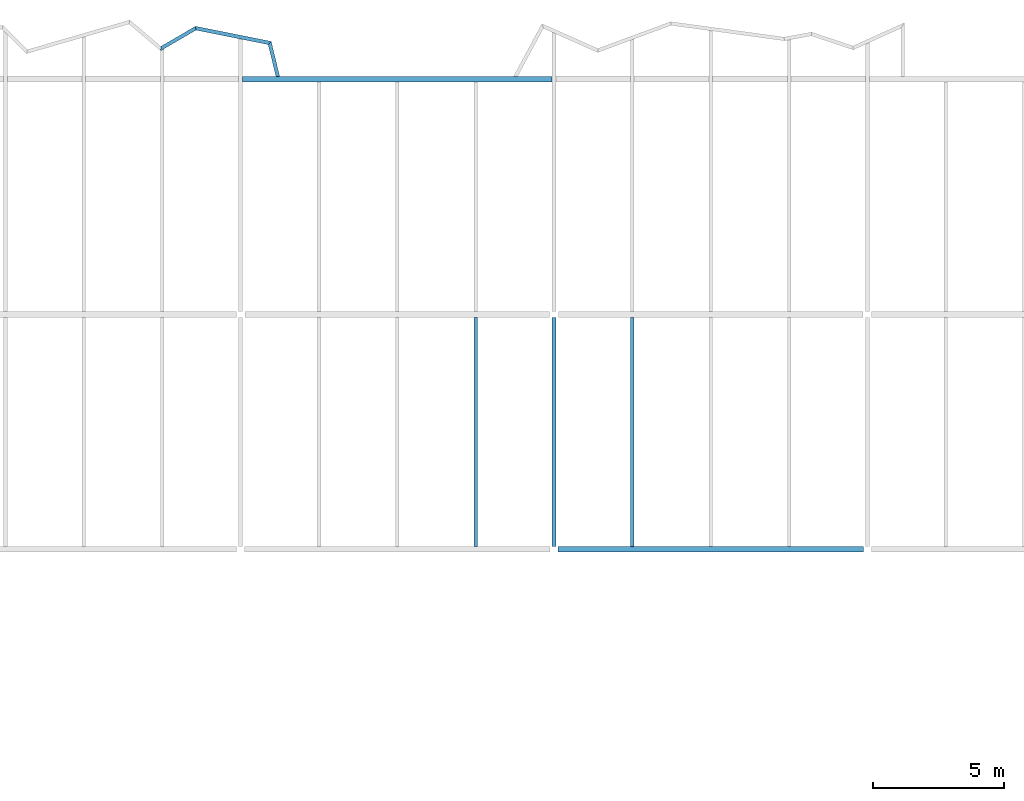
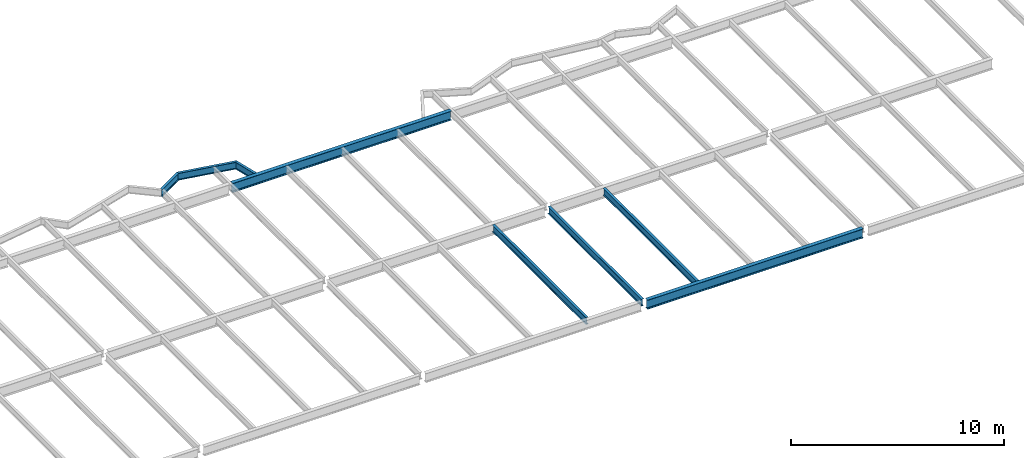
# One storey, part 5 of 21: 8 beams.
"""IFC2X3 building model written with IfcOpenShell, lengths in millimetres."""

from ifc_helpers import new_model, si_unit, origin, place, context, project, spatial, faceted_brep, material, element, save


model = new_model("IFC2X3")

# Units and contexts
context_of_model = context(None, 3, precision=1e-05, world=origin())
ifc_project = project(units=[si_unit("LENGTHUNIT", "METRE", prefix="MILLI")], contexts=[context_of_model])

# Building, storey
building = spatial("IfcBuilding", under=ifc_project, Name="Building", CompositionType="ELEMENT")
storey = spatial("IfcBuildingStorey", under=building, Name="FL3-FRM", CompositionType="ELEMENT")

# Beams
ifc_material_1 = material(Name="A992")
beam_1_placement = place(None, origin())
element("IfcBeam", 1, at=beam_1_placement, inside=storey, material=ifc_material_1, Name="Column455", context=context_of_model, shape_type="Brep", body=[
    faceted_brep([(-35930.0, 35895.5, 8345.0), (-35930.0, 36104.5, 8345.0), (-24070.0, 36104.5, 8345.0), (-24070.0, 35895.5, 8345.0), (-35930.0, 36104.5, 8358.3), (-24070.0, 36104.5, 8358.3), (-35930.0, 36017.4, 8358.3), (-24070.0, 36017.4, 8358.3), (-35930.0, 36014.2, 8358.73), (-24070.0, 36014.2, 8358.73), (-35930.0, 36011.1, 8360.0), (-24070.0, 36011.1, 8360.0), (-35930.0, 36008.5, 8362.02), (-24070.0, 36008.5, 8362.02), (-35930.0, 36006.5, 8364.65), (-24070.0, 36006.5, 8364.65), (-35930.0, 36005.2, 8367.71), (-24070.0, 36005.2, 8367.71), (-35930.0, 36004.8, 8371.0), (-24070.0, 36004.8, 8371.0), (-35930.0, 36004.8, 8847.0), (-24070.0, 36004.8, 8847.0), (-35930.0, 36005.2, 8850.29), (-24070.0, 36005.2, 8850.29), (-35930.0, 36006.5, 8853.35), (-24070.0, 36006.5, 8853.35), (-35930.0, 36008.5, 8855.98), (-24070.0, 36008.5, 8855.98), (-35930.0, 36011.1, 8858.0), (-24070.0, 36011.1, 8858.0), (-35930.0, 36014.2, 8859.27), (-24070.0, 36014.2, 8859.27), (-35930.0, 36017.4, 8859.7), (-24070.0, 36017.4, 8859.7), (-35930.0, 36104.5, 8859.7), (-24070.0, 36104.5, 8859.7), (-35930.0, 36104.5, 8873.0), (-24070.0, 36104.5, 8873.0), (-35930.0, 35895.5, 8873.0), (-24070.0, 35895.5, 8873.0), (-35930.0, 35895.5, 8859.7), (-24070.0, 35895.5, 8859.7), (-35930.0, 35982.6, 8859.7), (-24070.0, 35982.6, 8859.7), (-35930.0, 35985.8, 8859.27), (-24070.0, 35985.8, 8859.27), (-35930.0, 35988.9, 8858.0), (-24070.0, 35988.9, 8858.0), (-35930.0, 35991.5, 8855.98), (-24070.0, 35991.5, 8855.98), (-35930.0, 35993.5, 8853.35), (-24070.0, 35993.5, 8853.35), (-35930.0, 35994.8, 8850.29), (-24070.0, 35994.8, 8850.29), (-35930.0, 35995.3, 8847.0), (-24070.0, 35995.3, 8847.0), (-35930.0, 35995.3, 8371.0), (-24070.0, 35995.3, 8371.0), (-35930.0, 35994.8, 8367.71), (-24070.0, 35994.8, 8367.71), (-35930.0, 35993.5, 8364.65), (-24070.0, 35993.5, 8364.65), (-35930.0, 35991.5, 8362.02), (-24070.0, 35991.5, 8362.02), (-35930.0, 35988.9, 8360.0), (-24070.0, 35988.9, 8360.0), (-35930.0, 35985.8, 8358.73), (-24070.0, 35985.8, 8358.73), (-35930.0, 35982.6, 8358.3), (-24070.0, 35982.6, 8358.3), (-35930.0, 35895.5, 8358.3), (-24070.0, 35895.5, 8358.3)], [[[0, 1, 2, 3]], [[1, 4, 5, 2]], [[4, 6, 7, 5]], [[6, 8, 9, 7]], [[8, 10, 11, 9]], [[10, 12, 13, 11]], [[12, 14, 15, 13]], [[14, 16, 17, 15]], [[16, 18, 19, 17]], [[18, 20, 21, 19]], [[20, 22, 23, 21]], [[22, 24, 25, 23]], [[24, 26, 27, 25]], [[26, 28, 29, 27]], [[28, 30, 31, 29]], [[30, 32, 33, 31]], [[32, 34, 35, 33]], [[34, 36, 37, 35]], [[36, 38, 39, 37]], [[38, 40, 41, 39]], [[40, 42, 43, 41]], [[42, 44, 45, 43]], [[44, 46, 47, 45]], [[46, 48, 49, 47]], [[48, 50, 51, 49]], [[50, 52, 53, 51]], [[52, 54, 55, 53]], [[54, 56, 57, 55]], [[56, 58, 59, 57]], [[58, 60, 61, 59]], [[60, 62, 63, 61]], [[62, 64, 65, 63]], [[64, 66, 67, 65]], [[66, 68, 69, 67]], [[68, 70, 71, 69]], [[70, 0, 3, 71]], [[0, 70, 68, 66, 64, 62, 60, 58, 56, 54, 52, 50, 48, 46, 44, 42, 40, 38, 36, 34, 32, 30, 28, 26, 24, 22, 20, 18, 16, 14, 12, 10, 8, 6, 4, 1]], [[3, 2, 5, 7, 9, 11, 13, 15, 17, 19, 21, 23, 25, 27, 29, 31, 33, 35, 37, 39, 41, 43, 45, 47, 49, 51, 53, 55, 57, 59, 61, 63, 65, 67, 69, 71]]]),
])
ifc_material_2 = material(Name="A992")
beam_2_placement = place(None, origin())
element("IfcBeam", 2, at=beam_2_placement, inside=storey, material=ifc_material_2, Name="Column467", context=context_of_model, shape_type="Brep", body=[
    faceted_brep([(-23846.0, 17895.5, 8345.0), (-23846.0, 18104.5, 8345.0), (-12154.0, 18104.5, 8345.0), (-12154.0, 17895.5, 8345.0), (-23846.0, 18104.5, 8358.3), (-12154.0, 18104.5, 8358.3), (-23846.0, 18017.4, 8358.3), (-12154.0, 18017.4, 8358.3), (-23846.0, 18014.2, 8358.73), (-12154.0, 18014.2, 8358.73), (-23846.0, 18011.1, 8360.0), (-12154.0, 18011.1, 8360.0), (-23846.0, 18008.5, 8362.02), (-12154.0, 18008.5, 8362.02), (-23846.0, 18006.5, 8364.65), (-12154.0, 18006.5, 8364.65), (-23846.0, 18005.2, 8367.71), (-12154.0, 18005.2, 8367.71), (-23846.0, 18004.8, 8371.0), (-12154.0, 18004.8, 8371.0), (-23846.0, 18004.8, 8847.0), (-12154.0, 18004.8, 8847.0), (-23846.0, 18005.2, 8850.29), (-12154.0, 18005.2, 8850.29), (-23846.0, 18006.5, 8853.35), (-12154.0, 18006.5, 8853.35), (-23846.0, 18008.5, 8855.98), (-12154.0, 18008.5, 8855.98), (-23846.0, 18011.1, 8858.0), (-12154.0, 18011.1, 8858.0), (-23846.0, 18014.2, 8859.27), (-12154.0, 18014.2, 8859.27), (-23846.0, 18017.4, 8859.7), (-12154.0, 18017.4, 8859.7), (-23846.0, 18104.5, 8859.7), (-12154.0, 18104.5, 8859.7), (-23846.0, 18104.5, 8873.0), (-12154.0, 18104.5, 8873.0), (-23846.0, 17895.5, 8873.0), (-12154.0, 17895.5, 8873.0), (-23846.0, 17895.5, 8859.7), (-12154.0, 17895.5, 8859.7), (-23846.0, 17982.6, 8859.7), (-12154.0, 17982.6, 8859.7), (-23846.0, 17985.8, 8859.27), (-12154.0, 17985.8, 8859.27), (-23846.0, 17988.9, 8858.0), (-12154.0, 17988.9, 8858.0), (-23846.0, 17991.5, 8855.98), (-12154.0, 17991.5, 8855.98), (-23846.0, 17993.5, 8853.35), (-12154.0, 17993.5, 8853.35), (-23846.0, 17994.8, 8850.29), (-12154.0, 17994.8, 8850.29), (-23846.0, 17995.3, 8847.0), (-12154.0, 17995.3, 8847.0), (-23846.0, 17995.3, 8371.0), (-12154.0, 17995.3, 8371.0), (-23846.0, 17994.8, 8367.71), (-12154.0, 17994.8, 8367.71), (-23846.0, 17993.5, 8364.65), (-12154.0, 17993.5, 8364.65), (-23846.0, 17991.5, 8362.02), (-12154.0, 17991.5, 8362.02), (-23846.0, 17988.9, 8360.0), (-12154.0, 17988.9, 8360.0), (-23846.0, 17985.8, 8358.73), (-12154.0, 17985.8, 8358.73), (-23846.0, 17982.6, 8358.3), (-12154.0, 17982.6, 8358.3), (-23846.0, 17895.5, 8358.3), (-12154.0, 17895.5, 8358.3)], [[[0, 1, 2, 3]], [[1, 4, 5, 2]], [[4, 6, 7, 5]], [[6, 8, 9, 7]], [[8, 10, 11, 9]], [[10, 12, 13, 11]], [[12, 14, 15, 13]], [[14, 16, 17, 15]], [[16, 18, 19, 17]], [[18, 20, 21, 19]], [[20, 22, 23, 21]], [[22, 24, 25, 23]], [[24, 26, 27, 25]], [[26, 28, 29, 27]], [[28, 30, 31, 29]], [[30, 32, 33, 31]], [[32, 34, 35, 33]], [[34, 36, 37, 35]], [[36, 38, 39, 37]], [[38, 40, 41, 39]], [[40, 42, 43, 41]], [[42, 44, 45, 43]], [[44, 46, 47, 45]], [[46, 48, 49, 47]], [[48, 50, 51, 49]], [[50, 52, 53, 51]], [[52, 54, 55, 53]], [[54, 56, 57, 55]], [[56, 58, 59, 57]], [[58, 60, 61, 59]], [[60, 62, 63, 61]], [[62, 64, 65, 63]], [[64, 66, 67, 65]], [[66, 68, 69, 67]], [[68, 70, 71, 69]], [[70, 0, 3, 71]], [[0, 70, 68, 66, 64, 62, 60, 58, 56, 54, 52, 50, 48, 46, 44, 42, 40, 38, 36, 34, 32, 30, 28, 26, 24, 22, 20, 18, 16, 14, 12, 10, 8, 6, 4, 1]], [[3, 2, 5, 7, 9, 11, 13, 15, 17, 19, 21, 23, 25, 27, 29, 31, 33, 35, 37, 39, 41, 43, 45, 47, 49, 51, 53, 55, 57, 59, 61, 63, 65, 67, 69, 71]]]),
])
ifc_material_3 = material(Name="A992")
beam_3_placement = place(None, origin())
element("IfcBeam", 3, at=beam_3_placement, inside=storey, material=ifc_material_3, Name="B434", context=context_of_model, shape_type="Brep", body=[
    faceted_brep([(-20930.0, 18104.5, 8474.0), (-21070.0, 18104.5, 8474.0), (-21070.0, 26885.5, 8474.0), (-20930.0, 26885.5, 8474.0), (-21070.0, 18104.5, 8482.8), (-21070.0, 26885.5, 8482.8), (-21013.4, 18104.5, 8482.8), (-21013.4, 26885.5, 8482.8), (-21010.8, 18104.5, 8483.15), (-21010.8, 26885.5, 8483.15), (-21008.3, 18104.5, 8484.17), (-21008.3, 26885.5, 8484.17), (-21006.2, 18104.5, 8485.79), (-21006.2, 26885.5, 8485.79), (-21004.6, 18104.5, 8487.9), (-21004.6, 26885.5, 8487.9), (-21003.5, 18104.5, 8490.36), (-21003.5, 26885.5, 8490.36), (-21003.2, 18104.5, 8493.0), (-21003.2, 26885.5, 8493.0), (-21003.2, 18104.5, 8854.0), (-21003.2, 26885.5, 8854.0), (-21003.5, 18104.5, 8856.64), (-21003.5, 26885.5, 8856.64), (-21004.6, 18104.5, 8859.1), (-21004.6, 26885.5, 8859.1), (-21006.2, 18104.5, 8861.21), (-21006.2, 26885.5, 8861.21), (-21008.3, 18104.5, 8862.83), (-21008.3, 26885.5, 8862.83), (-21010.8, 18104.5, 8863.85), (-21010.8, 26885.5, 8863.85), (-21013.4, 18104.5, 8864.2), (-21013.4, 26885.5, 8864.2), (-21070.0, 18104.5, 8864.2), (-21070.0, 26885.5, 8864.2), (-21070.0, 18104.5, 8873.0), (-21070.0, 26885.5, 8873.0), (-20930.0, 18104.5, 8873.0), (-20930.0, 26885.5, 8873.0), (-20930.0, 18104.5, 8864.2), (-20930.0, 26885.5, 8864.2), (-20986.6, 18104.5, 8864.2), (-20986.6, 26885.5, 8864.2), (-20989.2, 18104.5, 8863.85), (-20989.2, 26885.5, 8863.85), (-20991.7, 18104.5, 8862.83), (-20991.7, 26885.5, 8862.83), (-20993.8, 18104.5, 8861.21), (-20993.8, 26885.5, 8861.21), (-20995.4, 18104.5, 8859.1), (-20995.4, 26885.5, 8859.1), (-20996.5, 18104.5, 8856.64), (-20996.5, 26885.5, 8856.64), (-20996.8, 18104.5, 8854.0), (-20996.8, 26885.5, 8854.0), (-20996.8, 18104.5, 8493.0), (-20996.8, 26885.5, 8493.0), (-20996.5, 18104.5, 8490.36), (-20996.5, 26885.5, 8490.36), (-20995.4, 18104.5, 8487.9), (-20995.4, 26885.5, 8487.9), (-20993.8, 18104.5, 8485.79), (-20993.8, 26885.5, 8485.79), (-20991.7, 18104.5, 8484.17), (-20991.7, 26885.5, 8484.17), (-20989.2, 18104.5, 8483.15), (-20989.2, 26885.5, 8483.15), (-20986.6, 18104.5, 8482.8), (-20986.6, 26885.5, 8482.8), (-20930.0, 18104.5, 8482.8), (-20930.0, 26885.5, 8482.8)], [[[0, 1, 2, 3]], [[1, 4, 5, 2]], [[4, 6, 7, 5]], [[6, 8, 9, 7]], [[8, 10, 11, 9]], [[10, 12, 13, 11]], [[12, 14, 15, 13]], [[14, 16, 17, 15]], [[16, 18, 19, 17]], [[18, 20, 21, 19]], [[20, 22, 23, 21]], [[22, 24, 25, 23]], [[24, 26, 27, 25]], [[26, 28, 29, 27]], [[28, 30, 31, 29]], [[30, 32, 33, 31]], [[32, 34, 35, 33]], [[34, 36, 37, 35]], [[36, 38, 39, 37]], [[38, 40, 41, 39]], [[40, 42, 43, 41]], [[42, 44, 45, 43]], [[44, 46, 47, 45]], [[46, 48, 49, 47]], [[48, 50, 51, 49]], [[50, 52, 53, 51]], [[52, 54, 55, 53]], [[54, 56, 57, 55]], [[56, 58, 59, 57]], [[58, 60, 61, 59]], [[60, 62, 63, 61]], [[62, 64, 65, 63]], [[64, 66, 67, 65]], [[66, 68, 69, 67]], [[68, 70, 71, 69]], [[70, 0, 3, 71]], [[0, 70, 68, 66, 64, 62, 60, 58, 56, 54, 52, 50, 48, 46, 44, 42, 40, 38, 36, 34, 32, 30, 28, 26, 24, 22, 20, 18, 16, 14, 12, 10, 8, 6, 4, 1]], [[3, 2, 5, 7, 9, 11, 13, 15, 17, 19, 21, 23, 25, 27, 29, 31, 33, 35, 37, 39, 41, 43, 45, 47, 49, 51, 53, 55, 57, 59, 61, 63, 65, 67, 69, 71]]]),
])
ifc_material_4 = material(Name="A992")
beam_4_placement = place(None, origin())
element("IfcBeam", 4, at=beam_4_placement, inside=storey, material=ifc_material_4, Name="B435", context=context_of_model, shape_type="Brep", body=[
    faceted_brep([(-23930.0, 18104.5, 8474.0), (-24070.0, 18104.5, 8474.0), (-24070.0, 26885.5, 8474.0), (-23930.0, 26885.5, 8474.0), (-24070.0, 18104.5, 8482.8), (-24070.0, 26885.5, 8482.8), (-24013.4, 18104.5, 8482.8), (-24013.4, 26885.5, 8482.8), (-24010.8, 18104.5, 8483.15), (-24010.8, 26885.5, 8483.15), (-24008.3, 18104.5, 8484.17), (-24008.3, 26885.5, 8484.17), (-24006.2, 18104.5, 8485.79), (-24006.2, 26885.5, 8485.79), (-24004.6, 18104.5, 8487.9), (-24004.6, 26885.5, 8487.9), (-24003.5, 18104.5, 8490.36), (-24003.5, 26885.5, 8490.36), (-24003.2, 18104.5, 8493.0), (-24003.2, 26885.5, 8493.0), (-24003.2, 18104.5, 8854.0), (-24003.2, 26885.5, 8854.0), (-24003.5, 18104.5, 8856.64), (-24003.5, 26885.5, 8856.64), (-24004.6, 18104.5, 8859.1), (-24004.6, 26885.5, 8859.1), (-24006.2, 18104.5, 8861.21), (-24006.2, 26885.5, 8861.21), (-24008.3, 18104.5, 8862.83), (-24008.3, 26885.5, 8862.83), (-24010.8, 18104.5, 8863.85), (-24010.8, 26885.5, 8863.85), (-24013.4, 18104.5, 8864.2), (-24013.4, 26885.5, 8864.2), (-24070.0, 18104.5, 8864.2), (-24070.0, 26885.5, 8864.2), (-24070.0, 18104.5, 8873.0), (-24070.0, 26885.5, 8873.0), (-23930.0, 18104.5, 8873.0), (-23930.0, 26885.5, 8873.0), (-23930.0, 18104.5, 8864.2), (-23930.0, 26885.5, 8864.2), (-23986.6, 18104.5, 8864.2), (-23986.6, 26885.5, 8864.2), (-23989.2, 18104.5, 8863.85), (-23989.2, 26885.5, 8863.85), (-23991.7, 18104.5, 8862.83), (-23991.7, 26885.5, 8862.83), (-23993.8, 18104.5, 8861.21), (-23993.8, 26885.5, 8861.21), (-23995.4, 18104.5, 8859.1), (-23995.4, 26885.5, 8859.1), (-23996.5, 18104.5, 8856.64), (-23996.5, 26885.5, 8856.64), (-23996.8, 18104.5, 8854.0), (-23996.8, 26885.5, 8854.0), (-23996.8, 18104.5, 8493.0), (-23996.8, 26885.5, 8493.0), (-23996.5, 18104.5, 8490.36), (-23996.5, 26885.5, 8490.36), (-23995.4, 18104.5, 8487.9), (-23995.4, 26885.5, 8487.9), (-23993.8, 18104.5, 8485.79), (-23993.8, 26885.5, 8485.79), (-23991.7, 18104.5, 8484.17), (-23991.7, 26885.5, 8484.17), (-23989.2, 18104.5, 8483.15), (-23989.2, 26885.5, 8483.15), (-23986.6, 18104.5, 8482.8), (-23986.6, 26885.5, 8482.8), (-23930.0, 18104.5, 8482.8), (-23930.0, 26885.5, 8482.8)], [[[0, 1, 2, 3]], [[1, 4, 5, 2]], [[4, 6, 7, 5]], [[6, 8, 9, 7]], [[8, 10, 11, 9]], [[10, 12, 13, 11]], [[12, 14, 15, 13]], [[14, 16, 17, 15]], [[16, 18, 19, 17]], [[18, 20, 21, 19]], [[20, 22, 23, 21]], [[22, 24, 25, 23]], [[24, 26, 27, 25]], [[26, 28, 29, 27]], [[28, 30, 31, 29]], [[30, 32, 33, 31]], [[32, 34, 35, 33]], [[34, 36, 37, 35]], [[36, 38, 39, 37]], [[38, 40, 41, 39]], [[40, 42, 43, 41]], [[42, 44, 45, 43]], [[44, 46, 47, 45]], [[46, 48, 49, 47]], [[48, 50, 51, 49]], [[50, 52, 53, 51]], [[52, 54, 55, 53]], [[54, 56, 57, 55]], [[56, 58, 59, 57]], [[58, 60, 61, 59]], [[60, 62, 63, 61]], [[62, 64, 65, 63]], [[64, 66, 67, 65]], [[66, 68, 69, 67]], [[68, 70, 71, 69]], [[70, 0, 3, 71]], [[0, 70, 68, 66, 64, 62, 60, 58, 56, 54, 52, 50, 48, 46, 44, 42, 40, 38, 36, 34, 32, 30, 28, 26, 24, 22, 20, 18, 16, 14, 12, 10, 8, 6, 4, 1]], [[3, 2, 5, 7, 9, 11, 13, 15, 17, 19, 21, 23, 25, 27, 29, 31, 33, 35, 37, 39, 41, 43, 45, 47, 49, 51, 53, 55, 57, 59, 61, 63, 65, 67, 69, 71]]]),
])
ifc_material_5 = material(Name="A992")
beam_5_placement = place(None, origin())
element("IfcBeam", 5, at=beam_5_placement, inside=storey, material=ifc_material_5, Name="B436", context=context_of_model, shape_type="Brep", body=[
    faceted_brep([(-26930.0, 18104.5, 8474.0), (-27070.0, 18104.5, 8474.0), (-27070.0, 26885.5, 8474.0), (-26930.0, 26885.5, 8474.0), (-27070.0, 18104.5, 8482.8), (-27070.0, 26885.5, 8482.8), (-27013.4, 18104.5, 8482.8), (-27013.4, 26885.5, 8482.8), (-27010.8, 18104.5, 8483.15), (-27010.8, 26885.5, 8483.15), (-27008.3, 18104.5, 8484.17), (-27008.3, 26885.5, 8484.17), (-27006.2, 18104.5, 8485.79), (-27006.2, 26885.5, 8485.79), (-27004.6, 18104.5, 8487.9), (-27004.6, 26885.5, 8487.9), (-27003.5, 18104.5, 8490.36), (-27003.5, 26885.5, 8490.36), (-27003.2, 18104.5, 8493.0), (-27003.2, 26885.5, 8493.0), (-27003.2, 18104.5, 8854.0), (-27003.2, 26885.5, 8854.0), (-27003.5, 18104.5, 8856.64), (-27003.5, 26885.5, 8856.64), (-27004.6, 18104.5, 8859.1), (-27004.6, 26885.5, 8859.1), (-27006.2, 18104.5, 8861.21), (-27006.2, 26885.5, 8861.21), (-27008.3, 18104.5, 8862.83), (-27008.3, 26885.5, 8862.83), (-27010.8, 18104.5, 8863.85), (-27010.8, 26885.5, 8863.85), (-27013.4, 18104.5, 8864.2), (-27013.4, 26885.5, 8864.2), (-27070.0, 18104.5, 8864.2), (-27070.0, 26885.5, 8864.2), (-27070.0, 18104.5, 8873.0), (-27070.0, 26885.5, 8873.0), (-26930.0, 18104.5, 8873.0), (-26930.0, 26885.5, 8873.0), (-26930.0, 18104.5, 8864.2), (-26930.0, 26885.5, 8864.2), (-26986.6, 18104.5, 8864.2), (-26986.6, 26885.5, 8864.2), (-26989.2, 18104.5, 8863.85), (-26989.2, 26885.5, 8863.85), (-26991.7, 18104.5, 8862.83), (-26991.7, 26885.5, 8862.83), (-26993.8, 18104.5, 8861.21), (-26993.8, 26885.5, 8861.21), (-26995.4, 18104.5, 8859.1), (-26995.4, 26885.5, 8859.1), (-26996.5, 18104.5, 8856.64), (-26996.5, 26885.5, 8856.64), (-26996.8, 18104.5, 8854.0), (-26996.8, 26885.5, 8854.0), (-26996.8, 18104.5, 8493.0), (-26996.8, 26885.5, 8493.0), (-26996.5, 18104.5, 8490.36), (-26996.5, 26885.5, 8490.36), (-26995.4, 18104.5, 8487.9), (-26995.4, 26885.5, 8487.9), (-26993.8, 18104.5, 8485.79), (-26993.8, 26885.5, 8485.79), (-26991.7, 18104.5, 8484.17), (-26991.7, 26885.5, 8484.17), (-26989.2, 18104.5, 8483.15), (-26989.2, 26885.5, 8483.15), (-26986.6, 18104.5, 8482.8), (-26986.6, 26885.5, 8482.8), (-26930.0, 18104.5, 8482.8), (-26930.0, 26885.5, 8482.8)], [[[0, 1, 2, 3]], [[1, 4, 5, 2]], [[4, 6, 7, 5]], [[6, 8, 9, 7]], [[8, 10, 11, 9]], [[10, 12, 13, 11]], [[12, 14, 15, 13]], [[14, 16, 17, 15]], [[16, 18, 19, 17]], [[18, 20, 21, 19]], [[20, 22, 23, 21]], [[22, 24, 25, 23]], [[24, 26, 27, 25]], [[26, 28, 29, 27]], [[28, 30, 31, 29]], [[30, 32, 33, 31]], [[32, 34, 35, 33]], [[34, 36, 37, 35]], [[36, 38, 39, 37]], [[38, 40, 41, 39]], [[40, 42, 43, 41]], [[42, 44, 45, 43]], [[44, 46, 47, 45]], [[46, 48, 49, 47]], [[48, 50, 51, 49]], [[50, 52, 53, 51]], [[52, 54, 55, 53]], [[54, 56, 57, 55]], [[56, 58, 59, 57]], [[58, 60, 61, 59]], [[60, 62, 63, 61]], [[62, 64, 65, 63]], [[64, 66, 67, 65]], [[66, 68, 69, 67]], [[68, 70, 71, 69]], [[70, 0, 3, 71]], [[0, 70, 68, 66, 64, 62, 60, 58, 56, 54, 52, 50, 48, 46, 44, 42, 40, 38, 36, 34, 32, 30, 28, 26, 24, 22, 20, 18, 16, 14, 12, 10, 8, 6, 4, 1]], [[3, 2, 5, 7, 9, 11, 13, 15, 17, 19, 21, 23, 25, 27, 29, 31, 33, 35, 37, 39, 41, 43, 45, 47, 49, 51, 53, 55, 57, 59, 61, 63, 65, 67, 69, 71]]]),
])
ifc_material_6 = material(Name="A992")
beam_6_placement = place(None, origin())
element("IfcBeam", 6, at=beam_6_placement, inside=storey, material=ifc_material_6, Name="B1078", context=context_of_model, shape_type="Brep", body=[
    faceted_brep([(-34942.2, 37327.2, 8474.0), (-34827.2, 37446.9, 8474.0), (-34500.7, 36104.5, 8474.0), (-34644.8, 36104.5, 8474.0), (-34827.2, 37446.9, 8482.8), (-34500.7, 36104.5, 8482.8), (-34873.7, 37398.5, 8482.8), (-34559.0, 36104.5, 8482.8), (-34874.9, 37397.3, 8482.89), (-34560.5, 36104.5, 8482.9), (-34876.1, 37396.1, 8483.2), (-34561.9, 36104.5, 8483.21), (-34877.2, 37394.9, 8483.72), (-34563.3, 36104.5, 8483.72), (-34878.2, 37393.8, 8484.4), (-34564.6, 36104.5, 8484.42), (-34879.2, 37392.8, 8485.28), (-34565.8, 36104.5, 8485.29), (-34880.0, 37391.9, 8486.31), (-34566.9, 36104.5, 8486.32), (-34880.8, 37391.2, 8487.46), (-34567.8, 36104.5, 8487.48), (-34881.3, 37390.6, 8488.75), (-34568.5, 36104.5, 8488.76), (-34881.7, 37390.1, 8490.12), (-34569.0, 36104.5, 8490.12), (-34882.0, 37389.9, 8491.54), (-34569.3, 36104.5, 8491.55), (-34882.1, 37389.8, 8493.0), (-34569.5, 36104.5, 8493.0), (-34882.1, 37389.8, 8854.0), (-34569.5, 36104.5, 8854.0), (-34882.0, 37389.9, 8855.46), (-34569.3, 36104.5, 8855.45), (-34881.7, 37390.1, 8856.88), (-34569.0, 36104.5, 8856.88), (-34881.3, 37390.6, 8858.25), (-34568.5, 36104.5, 8858.24), (-34880.8, 37391.2, 8859.54), (-34567.8, 36104.5, 8859.52), (-34880.0, 37391.9, 8860.69), (-34566.9, 36104.5, 8860.68), (-34879.2, 37392.8, 8861.72), (-34565.8, 36104.5, 8861.71), (-34878.2, 37393.8, 8862.6), (-34564.6, 36104.5, 8862.58), (-34877.2, 37394.9, 8863.28), (-34563.3, 36104.5, 8863.28), (-34876.1, 37396.1, 8863.8), (-34561.9, 36104.5, 8863.79), (-34874.9, 37397.3, 8864.11), (-34560.5, 36104.5, 8864.1), (-34873.7, 37398.5, 8864.2), (-34559.0, 36104.5, 8864.2), (-34827.2, 37446.9, 8864.2), (-34500.7, 36104.5, 8864.2), (-34827.2, 37446.9, 8873.0), (-34500.7, 36104.5, 8873.0), (-34942.2, 37327.2, 8873.0), (-34644.8, 36104.5, 8873.0), (-34942.2, 37327.2, 8864.2), (-34644.8, 36104.5, 8864.2), (-34895.7, 37375.6, 8864.2), (-34586.5, 36104.5, 8864.2), (-34894.5, 37376.8, 8864.11), (-34585.0, 36104.5, 8864.1), (-34893.4, 37378.0, 8863.8), (-34583.6, 36104.5, 8863.79), (-34892.2, 37379.2, 8863.28), (-34582.2, 36104.5, 8863.28), (-34891.2, 37380.3, 8862.6), (-34580.9, 36104.5, 8862.58), (-34890.2, 37381.3, 8861.72), (-34579.7, 36104.5, 8861.71), (-34889.4, 37382.2, 8860.69), (-34578.6, 36104.5, 8860.68), (-34888.7, 37382.9, 8859.54), (-34577.7, 36104.5, 8859.52), (-34888.1, 37383.5, 8858.25), (-34577.0, 36104.5, 8858.24), (-34887.7, 37383.9, 8856.88), (-34576.5, 36104.5, 8856.88), (-34887.4, 37384.2, 8855.46), (-34576.2, 36104.5, 8855.45), (-34887.3, 37384.3, 8854.0), (-34576.0, 36104.5, 8854.0), (-34887.3, 37384.3, 8493.0), (-34576.0, 36104.5, 8493.0), (-34887.4, 37384.2, 8491.54), (-34576.2, 36104.5, 8491.55), (-34887.7, 37383.9, 8490.12), (-34576.5, 36104.5, 8490.12), (-34888.1, 37383.5, 8488.75), (-34577.0, 36104.5, 8488.76), (-34888.7, 37382.9, 8487.46), (-34577.7, 36104.5, 8487.48), (-34889.4, 37382.2, 8486.31), (-34578.6, 36104.5, 8486.32), (-34890.2, 37381.3, 8485.28), (-34579.7, 36104.5, 8485.29), (-34891.2, 37380.3, 8484.4), (-34580.9, 36104.5, 8484.42), (-34892.2, 37379.2, 8483.72), (-34582.2, 36104.5, 8483.72), (-34893.4, 37378.0, 8483.2), (-34583.6, 36104.5, 8483.21), (-34894.5, 37376.8, 8482.89), (-34585.0, 36104.5, 8482.9), (-34895.7, 37375.6, 8482.8), (-34586.5, 36104.5, 8482.8), (-34942.2, 37327.2, 8482.8), (-34644.8, 36104.5, 8482.8)], [[[0, 1, 2, 3]], [[1, 4, 5, 2]], [[4, 6, 7, 5]], [[6, 8, 9, 7]], [[8, 10, 11, 9]], [[10, 12, 13, 11]], [[12, 14, 15, 13]], [[14, 16, 17, 15]], [[16, 18, 19, 17]], [[18, 20, 21, 19]], [[20, 22, 23, 21]], [[22, 24, 25, 23]], [[24, 26, 27, 25]], [[26, 28, 29, 27]], [[28, 30, 31, 29]], [[30, 32, 33, 31]], [[32, 34, 35, 33]], [[34, 36, 37, 35]], [[36, 38, 39, 37]], [[38, 40, 41, 39]], [[40, 42, 43, 41]], [[42, 44, 45, 43]], [[44, 46, 47, 45]], [[46, 48, 49, 47]], [[48, 50, 51, 49]], [[50, 52, 53, 51]], [[52, 54, 55, 53]], [[54, 56, 57, 55]], [[56, 58, 59, 57]], [[58, 60, 61, 59]], [[60, 62, 63, 61]], [[62, 64, 65, 63]], [[64, 66, 67, 65]], [[66, 68, 69, 67]], [[68, 70, 71, 69]], [[70, 72, 73, 71]], [[72, 74, 75, 73]], [[74, 76, 77, 75]], [[76, 78, 79, 77]], [[78, 80, 81, 79]], [[80, 82, 83, 81]], [[82, 84, 85, 83]], [[84, 86, 87, 85]], [[86, 88, 89, 87]], [[88, 90, 91, 89]], [[90, 92, 93, 91]], [[92, 94, 95, 93]], [[94, 96, 97, 95]], [[96, 98, 99, 97]], [[98, 100, 101, 99]], [[100, 102, 103, 101]], [[102, 104, 105, 103]], [[104, 106, 107, 105]], [[106, 108, 109, 107]], [[108, 110, 111, 109]], [[110, 0, 3, 111]], [[0, 110, 108, 106, 104, 102, 100, 98, 96, 94, 92, 90, 88, 86, 84, 82, 80, 78, 76, 74, 72, 70, 68, 66, 64, 62, 60, 58, 56, 54, 52, 50, 48, 46, 44, 42, 40, 38, 36, 34, 32, 30, 28, 26, 24, 22, 20, 18, 16, 14, 12, 10, 8, 6, 4, 1]], [[3, 2, 5, 7, 9, 11, 13, 15, 17, 19, 21, 23, 25, 27, 29, 31, 33, 35, 37, 39, 41, 43, 45, 47, 49, 51, 53, 55, 57, 59, 61, 63, 65, 67, 69, 71, 73, 75, 77, 79, 81, 83, 85, 87, 89, 91, 93, 95, 97, 99, 101, 103, 105, 107, 109, 111]]]),
])
ifc_material_7 = material(Name="A992")
beam_7_placement = place(None, origin())
element("IfcBeam", 7, at=beam_7_placement, inside=storey, material=ifc_material_7, Name="B1079", context=context_of_model, shape_type="Brep", body=[
    faceted_brep([(-37703.9, 37879.5, 8474.0), (-37728.6, 38027.2, 8474.0), (-34827.2, 37446.9, 8474.0), (-34942.2, 37327.2, 8474.0), (-37728.6, 38027.2, 8482.8), (-34827.2, 37446.9, 8482.8), (-37718.6, 37967.5, 8482.8), (-34873.7, 37398.5, 8482.8), (-37718.3, 37965.8, 8482.92), (-34875.0, 37397.1, 8482.91), (-37718.0, 37964.2, 8483.3), (-34876.3, 37395.8, 8483.29), (-37717.8, 37962.6, 8483.91), (-34877.5, 37394.6, 8483.91), (-37717.5, 37961.2, 8484.74), (-34878.6, 37393.4, 8484.73), (-37717.3, 37959.9, 8485.79), (-34879.6, 37392.3, 8485.79), (-37717.1, 37958.8, 8487.0), (-34880.5, 37391.5, 8486.98), (-37717.0, 37957.9, 8488.36), (-34881.2, 37390.7, 8488.35), (-37716.9, 37957.3, 8489.85), (-34881.7, 37390.2, 8489.84), (-37716.8, 37956.9, 8491.4), (-34882.0, 37389.9, 8491.39), (-37716.8, 37956.7, 8493.0), (-34882.1, 37389.8, 8493.0), (-37716.8, 37956.7, 8854.0), (-34882.1, 37389.8, 8854.0), (-37716.8, 37956.9, 8855.6), (-34882.0, 37389.9, 8855.61), (-37716.9, 37957.3, 8857.15), (-34881.7, 37390.2, 8857.16), (-37717.0, 37957.9, 8858.64), (-34881.2, 37390.7, 8858.65), (-37717.1, 37958.8, 8860.0), (-34880.5, 37391.5, 8860.02), (-37717.3, 37959.9, 8861.21), (-34879.6, 37392.3, 8861.21), (-37717.5, 37961.2, 8862.26), (-34878.6, 37393.4, 8862.27), (-37717.8, 37962.6, 8863.09), (-34877.5, 37394.6, 8863.09), (-37718.0, 37964.2, 8863.7), (-34876.3, 37395.8, 8863.71), (-37718.3, 37965.8, 8864.08), (-34875.0, 37397.1, 8864.09), (-37718.6, 37967.5, 8864.2), (-34873.7, 37398.5, 8864.2), (-37728.6, 38027.2, 8864.2), (-34827.2, 37446.9, 8864.2), (-37728.6, 38027.2, 8873.0), (-34827.2, 37446.9, 8873.0), (-37703.9, 37879.5, 8873.0), (-34942.2, 37327.2, 8873.0), (-37703.9, 37879.5, 8864.2), (-34942.2, 37327.2, 8864.2), (-37713.9, 37939.2, 8864.2), (-34895.7, 37375.6, 8864.2), (-37714.2, 37940.9, 8864.08), (-34894.4, 37376.9, 8864.09), (-37714.4, 37942.5, 8863.7), (-34893.1, 37378.3, 8863.71), (-37714.7, 37944.1, 8863.09), (-34891.9, 37379.5, 8863.09), (-37714.9, 37945.5, 8862.26), (-34890.8, 37380.7, 8862.27), (-37715.1, 37946.8, 8861.21), (-34889.8, 37381.7, 8861.21), (-37715.3, 37947.9, 8860.0), (-34889.0, 37382.6, 8860.02), (-37715.5, 37948.8, 8858.64), (-34888.3, 37383.3, 8858.65), (-37715.6, 37949.4, 8857.15), (-34887.8, 37383.9, 8857.16), (-37715.6, 37949.8, 8855.6), (-34887.5, 37384.2, 8855.61), (-37715.7, 37950.0, 8854.0), (-34887.3, 37384.3, 8854.0), (-37715.7, 37950.0, 8493.0), (-34887.3, 37384.3, 8493.0), (-37715.6, 37949.8, 8491.4), (-34887.5, 37384.2, 8491.39), (-37715.6, 37949.4, 8489.85), (-34887.8, 37383.9, 8489.84), (-37715.5, 37948.8, 8488.36), (-34888.3, 37383.3, 8488.35), (-37715.3, 37947.9, 8487.0), (-34889.0, 37382.6, 8486.98), (-37715.1, 37946.8, 8485.79), (-34889.8, 37381.7, 8485.79), (-37714.9, 37945.5, 8484.74), (-34890.8, 37380.7, 8484.73), (-37714.7, 37944.1, 8483.91), (-34891.9, 37379.5, 8483.91), (-37714.4, 37942.5, 8483.3), (-34893.1, 37378.3, 8483.29), (-37714.2, 37940.9, 8482.92), (-34894.4, 37376.9, 8482.91), (-37713.9, 37939.2, 8482.8), (-34895.7, 37375.6, 8482.8), (-37703.9, 37879.5, 8482.8), (-34942.2, 37327.2, 8482.8)], [[[0, 1, 2, 3]], [[1, 4, 5, 2]], [[4, 6, 7, 5]], [[6, 8, 9, 7]], [[8, 10, 11, 9]], [[10, 12, 13, 11]], [[12, 14, 15, 13]], [[14, 16, 17, 15]], [[16, 18, 19, 17]], [[18, 20, 21, 19]], [[20, 22, 23, 21]], [[22, 24, 25, 23]], [[24, 26, 27, 25]], [[26, 28, 29, 27]], [[28, 30, 31, 29]], [[30, 32, 33, 31]], [[32, 34, 35, 33]], [[34, 36, 37, 35]], [[36, 38, 39, 37]], [[38, 40, 41, 39]], [[40, 42, 43, 41]], [[42, 44, 45, 43]], [[44, 46, 47, 45]], [[46, 48, 49, 47]], [[48, 50, 51, 49]], [[50, 52, 53, 51]], [[52, 54, 55, 53]], [[54, 56, 57, 55]], [[56, 58, 59, 57]], [[58, 60, 61, 59]], [[60, 62, 63, 61]], [[62, 64, 65, 63]], [[64, 66, 67, 65]], [[66, 68, 69, 67]], [[68, 70, 71, 69]], [[70, 72, 73, 71]], [[72, 74, 75, 73]], [[74, 76, 77, 75]], [[76, 78, 79, 77]], [[78, 80, 81, 79]], [[80, 82, 83, 81]], [[82, 84, 85, 83]], [[84, 86, 87, 85]], [[86, 88, 89, 87]], [[88, 90, 91, 89]], [[90, 92, 93, 91]], [[92, 94, 95, 93]], [[94, 96, 97, 95]], [[96, 98, 99, 97]], [[98, 100, 101, 99]], [[100, 102, 103, 101]], [[102, 0, 3, 103]], [[0, 102, 100, 98, 96, 94, 92, 90, 88, 86, 84, 82, 80, 78, 76, 74, 72, 70, 68, 66, 64, 62, 60, 58, 56, 54, 52, 50, 48, 46, 44, 42, 40, 38, 36, 34, 32, 30, 28, 26, 24, 22, 20, 18, 16, 14, 12, 10, 8, 6, 4, 1]], [[3, 2, 5, 7, 9, 11, 13, 15, 17, 19, 21, 23, 25, 27, 29, 31, 33, 35, 37, 39, 41, 43, 45, 47, 49, 51, 53, 55, 57, 59, 61, 63, 65, 67, 69, 71, 73, 75, 77, 79, 81, 83, 85, 87, 89, 91, 93, 95, 97, 99, 101, 103]]]),
])
ifc_material_8 = material(Name="A992")
beam_8_placement = place(None, origin())
element("IfcBeam", 8, at=beam_8_placement, inside=storey, material=ifc_material_8, Name="B1081", context=context_of_model, shape_type="Brep", body=[
    faceted_brep([(-39062.7, 37086.8, 8474.0), (-39047.8, 37257.6, 8474.0), (-37728.6, 38027.2, 8474.0), (-37703.9, 37879.5, 8474.0), (-39047.8, 37257.6, 8482.8), (-37728.6, 38027.2, 8482.8), (-39053.9, 37188.6, 8482.8), (-37718.6, 37967.5, 8482.8), (-39054.0, 37186.6, 8482.91), (-37718.3, 37965.8, 8482.92), (-39054.2, 37184.7, 8483.29), (-37718.0, 37964.2, 8483.3), (-39054.3, 37183.0, 8483.91), (-37717.8, 37962.6, 8483.91), (-39054.5, 37181.3, 8484.72), (-37717.5, 37961.2, 8484.74), (-39054.6, 37179.8, 8485.79), (-37717.3, 37959.9, 8485.79), (-39054.7, 37178.5, 8486.98), (-37717.1, 37958.8, 8487.0), (-39054.8, 37177.5, 8488.35), (-37717.0, 37957.9, 8488.36), (-39054.9, 37176.8, 8489.84), (-37716.9, 37957.3, 8489.85), (-39054.9, 37176.3, 8491.39), (-37716.8, 37956.9, 8491.4), (-39054.9, 37176.1, 8493.0), (-37716.8, 37956.7, 8493.0), (-39054.9, 37176.1, 8854.0), (-37716.8, 37956.7, 8854.0), (-39054.9, 37176.3, 8855.61), (-37716.8, 37956.9, 8855.6), (-39054.9, 37176.8, 8857.16), (-37716.9, 37957.3, 8857.15), (-39054.8, 37177.5, 8858.65), (-37717.0, 37957.9, 8858.64), (-39054.7, 37178.5, 8860.02), (-37717.1, 37958.8, 8860.0), (-39054.6, 37179.8, 8861.21), (-37717.3, 37959.9, 8861.21), (-39054.5, 37181.3, 8862.28), (-37717.5, 37961.2, 8862.26), (-39054.3, 37183.0, 8863.09), (-37717.8, 37962.6, 8863.09), (-39054.2, 37184.7, 8863.71), (-37718.0, 37964.2, 8863.7), (-39054.0, 37186.6, 8864.09), (-37718.3, 37965.8, 8864.08), (-39053.9, 37188.6, 8864.2), (-37718.6, 37967.5, 8864.2), (-39047.8, 37257.6, 8864.2), (-37728.6, 38027.2, 8864.2), (-39047.8, 37257.6, 8873.0), (-37728.6, 38027.2, 8873.0), (-39062.7, 37086.8, 8873.0), (-37703.9, 37879.5, 8873.0), (-39062.7, 37086.8, 8864.2), (-37703.9, 37879.5, 8864.2), (-39056.7, 37155.9, 8864.2), (-37713.9, 37939.2, 8864.2), (-39056.5, 37157.8, 8864.09), (-37714.2, 37940.9, 8864.08), (-39056.4, 37159.7, 8863.71), (-37714.4, 37942.5, 8863.7), (-39056.2, 37161.5, 8863.09), (-37714.7, 37944.1, 8863.09), (-39056.1, 37163.2, 8862.28), (-37714.9, 37945.5, 8862.26), (-39055.9, 37164.7, 8861.21), (-37715.1, 37946.8, 8861.21), (-39055.8, 37165.9, 8860.02), (-37715.3, 37947.9, 8860.0), (-39055.7, 37167.0, 8858.65), (-37715.5, 37948.8, 8858.64), (-39055.7, 37167.7, 8857.16), (-37715.6, 37949.4, 8857.15), (-39055.6, 37168.2, 8855.61), (-37715.6, 37949.8, 8855.6), (-39055.6, 37168.3, 8854.0), (-37715.7, 37950.0, 8854.0), (-39055.6, 37168.3, 8493.0), (-37715.7, 37950.0, 8493.0), (-39055.6, 37168.2, 8491.39), (-37715.6, 37949.8, 8491.4), (-39055.7, 37167.7, 8489.84), (-37715.6, 37949.4, 8489.85), (-39055.7, 37167.0, 8488.35), (-37715.5, 37948.8, 8488.36), (-39055.8, 37165.9, 8486.98), (-37715.3, 37947.9, 8487.0), (-39055.9, 37164.7, 8485.79), (-37715.1, 37946.8, 8485.79), (-39056.1, 37163.2, 8484.72), (-37714.9, 37945.5, 8484.74), (-39056.2, 37161.5, 8483.91), (-37714.7, 37944.1, 8483.91), (-39056.4, 37159.7, 8483.29), (-37714.4, 37942.5, 8483.3), (-39056.5, 37157.8, 8482.91), (-37714.2, 37940.9, 8482.92), (-39056.7, 37155.9, 8482.8), (-37713.9, 37939.2, 8482.8), (-39062.7, 37086.8, 8482.8), (-37703.9, 37879.5, 8482.8)], [[[0, 1, 2, 3]], [[1, 4, 5, 2]], [[4, 6, 7, 5]], [[6, 8, 9, 7]], [[8, 10, 11, 9]], [[10, 12, 13, 11]], [[12, 14, 15, 13]], [[14, 16, 17, 15]], [[16, 18, 19, 17]], [[18, 20, 21, 19]], [[20, 22, 23, 21]], [[22, 24, 25, 23]], [[24, 26, 27, 25]], [[26, 28, 29, 27]], [[28, 30, 31, 29]], [[30, 32, 33, 31]], [[32, 34, 35, 33]], [[34, 36, 37, 35]], [[36, 38, 39, 37]], [[38, 40, 41, 39]], [[40, 42, 43, 41]], [[42, 44, 45, 43]], [[44, 46, 47, 45]], [[46, 48, 49, 47]], [[48, 50, 51, 49]], [[50, 52, 53, 51]], [[52, 54, 55, 53]], [[54, 56, 57, 55]], [[56, 58, 59, 57]], [[58, 60, 61, 59]], [[60, 62, 63, 61]], [[62, 64, 65, 63]], [[64, 66, 67, 65]], [[66, 68, 69, 67]], [[68, 70, 71, 69]], [[70, 72, 73, 71]], [[72, 74, 75, 73]], [[74, 76, 77, 75]], [[76, 78, 79, 77]], [[78, 80, 81, 79]], [[80, 82, 83, 81]], [[82, 84, 85, 83]], [[84, 86, 87, 85]], [[86, 88, 89, 87]], [[88, 90, 91, 89]], [[90, 92, 93, 91]], [[92, 94, 95, 93]], [[94, 96, 97, 95]], [[96, 98, 99, 97]], [[98, 100, 101, 99]], [[100, 102, 103, 101]], [[102, 0, 3, 103]], [[0, 102, 100, 98, 96, 94, 92, 90, 88, 86, 84, 82, 80, 78, 76, 74, 72, 70, 68, 66, 64, 62, 60, 58, 56, 54, 52, 50, 48, 46, 44, 42, 40, 38, 36, 34, 32, 30, 28, 26, 24, 22, 20, 18, 16, 14, 12, 10, 8, 6, 4, 1]], [[3, 2, 5, 7, 9, 11, 13, 15, 17, 19, 21, 23, 25, 27, 29, 31, 33, 35, 37, 39, 41, 43, 45, 47, 49, 51, 53, 55, 57, 59, 61, 63, 65, 67, 69, 71, 73, 75, 77, 79, 81, 83, 85, 87, 89, 91, 93, 95, 97, 99, 101, 103]]]),
])

save(model, "model.ifc")
